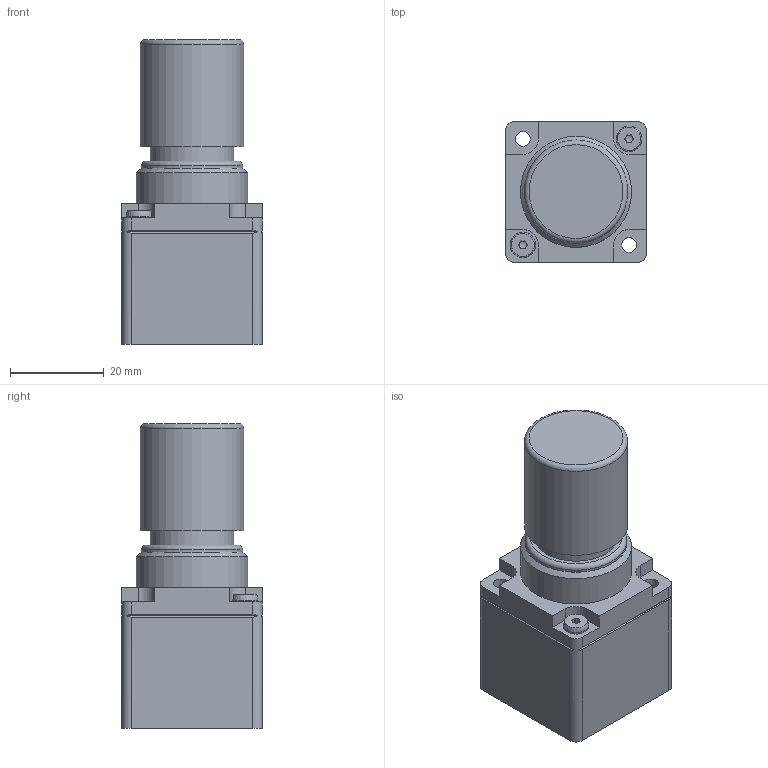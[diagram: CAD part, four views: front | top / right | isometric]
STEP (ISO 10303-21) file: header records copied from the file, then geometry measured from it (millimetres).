
FILE_DESCRIPTION((''),'2;1');
FILE_NAME('U:\AirCom-Produktdokumentation\Druckregler\R308\Zeichnungen\CAD-Aircom\3D\B-R308.stp','2012-01-31T15:28:36',('frank schroers'),(''),'Autodesk Inventor 2008','Autodesk Inventor 2008','');
FILE_SCHEMA(('AUTOMOTIVE_DESIGN { 1 0 10303 214 1 1 1 1 }'));
Length unit declared in the file: millimetre
Products named in the file (3): B-R308; Linsenschraube mit Innenkeilprofil - Zoll 4-40 UNC - 0,375
Assembly tree (3 placements, depth 2):
  B-R308
    B-R308
    Linsenschraube mit Innenkeilprofil - Zoll 4-40 UNC - 0,375  x2
Bounding box: 30 x 30 x 65 mm (x, y, z)
Volume: 38919.7 mm3; surface area: 9170.5 mm2
Topology: 3 solids, 3 shells, 127 faces, 320 edges, 211 vertices
Faces by surface type: plane 70, cylinder 48, sphere 4, cone 3, torus 2
Full cylindrical faces by diameter (mm): 2.845 x2, 3 x2, 3.2 x2, 3.8 x2, 5.41 x2, 7.6 x2, 17.8 x1, 21.6 x1, 22 x1, 23.7 x1
Entity records: 2837 total; most frequent: DIRECTION 516, CARTESIAN_POINT 467, ORIENTED_EDGE 426, EDGE_CURVE 213, AXIS2_PLACEMENT_3D 202, VERTEX_POINT 153, EDGE_LOOP 130, VECTOR 112
